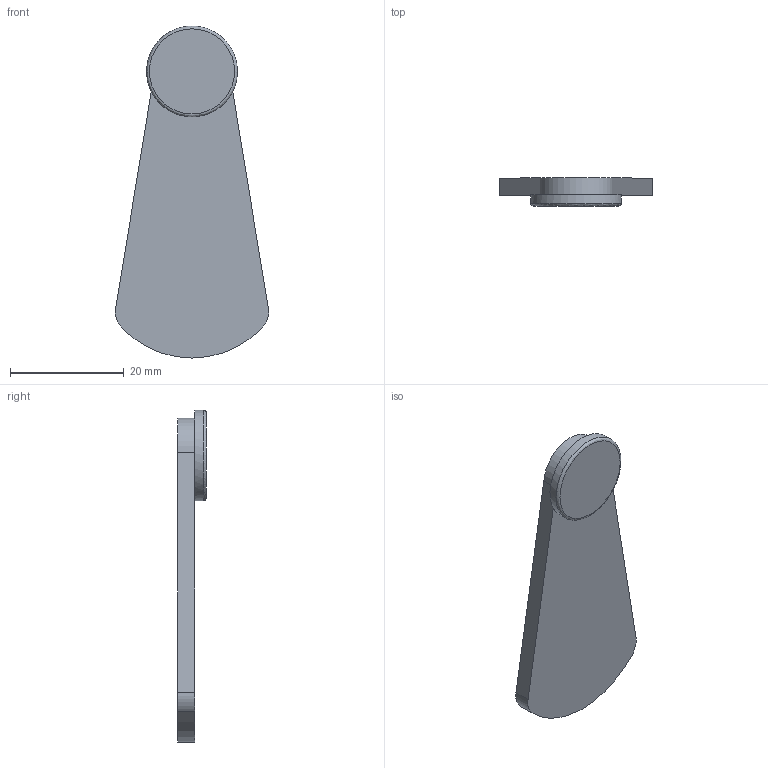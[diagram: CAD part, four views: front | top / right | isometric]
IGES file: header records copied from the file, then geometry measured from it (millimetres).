
Start section: Data from Parasolid IGES Translator 15.0.47, Copyright(c) 2006 Siemens P LM Software. All Rights Reserved.
Global section: file name: 9113648.igs; native system:  By UGS Corp.; preprocessor: XPlus GENERIC/IGES 3.0; author: Noname; organization: Noname; date: 20140122.095711; units: millimetre
Bounding box: 27 x 5 x 58.48 mm (x, y, z)
Surface area: 2805.6 mm2 (no closed solid volume)
Topology: 0 solids, 0 shells, 15 faces, 66 edges, 63 vertices
Faces by surface type: revolution 8, extrusion 7
